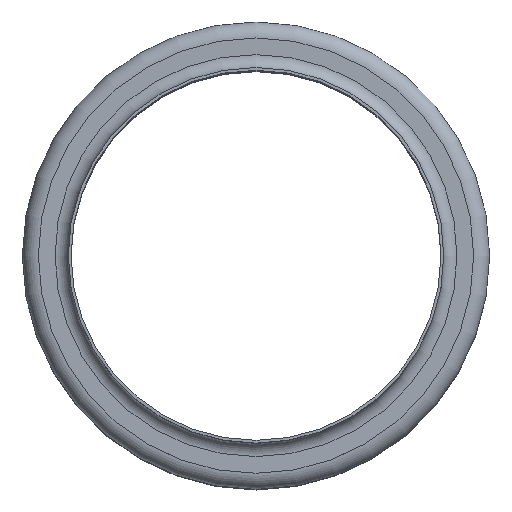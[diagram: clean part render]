
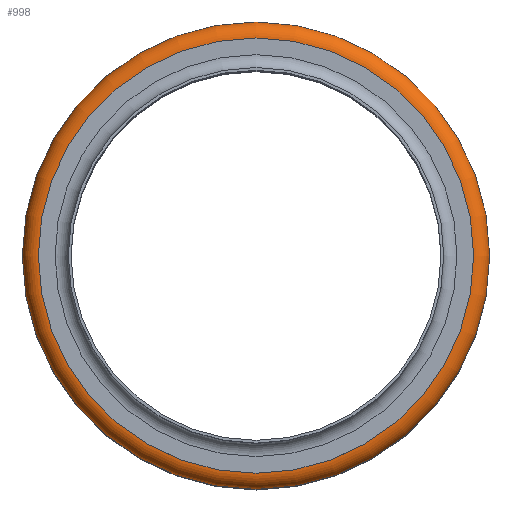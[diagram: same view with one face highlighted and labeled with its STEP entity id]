
A CAD part, top view. The second image highlights one B-rep face of the part: STEP entity #998.
In plain terms, the highlighted toroidal (fillet/blend) face has major radius 35.49 mm and minor radius 2.61 mm.
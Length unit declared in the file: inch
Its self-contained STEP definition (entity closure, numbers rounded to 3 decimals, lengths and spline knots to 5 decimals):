
#60=TOROIDAL_SURFACE('',#1189,1.39725,0.10275);
#163=FACE_OUTER_BOUND('',#270,.T.);
#270=EDGE_LOOP('',(#771,#772,#773,#774));
#383=CIRCLE('',#1188,1.39725);
#384=CIRCLE('',#1190,1.39725);
#385=CIRCLE('',#1191,0.10275);
#464=VERTEX_POINT('',#1814);
#465=VERTEX_POINT('',#1817);
#569=EDGE_CURVE('',#464,#464,#383,.T.);
#570=EDGE_CURVE('',#465,#465,#384,.T.);
#571=EDGE_CURVE('',#465,#464,#385,.T.);
#771=ORIENTED_EDGE('',*,*,#570,.F.);
#772=ORIENTED_EDGE('',*,*,#571,.T.);
#773=ORIENTED_EDGE('',*,*,#569,.T.);
#774=ORIENTED_EDGE('',*,*,#571,.F.);
#998=ADVANCED_FACE('',(#163),#60,.T.);
#1188=AXIS2_PLACEMENT_3D('',#1815,#1526,#1527);
#1189=AXIS2_PLACEMENT_3D('',#1816,#1528,#1529);
#1190=AXIS2_PLACEMENT_3D('',#1818,#1530,#1531);
#1191=AXIS2_PLACEMENT_3D('',#1819,#1532,#1533);
#1526=DIRECTION('center_axis',(0.,0.,-1.));
#1527=DIRECTION('ref_axis',(1.,0.,0.));
#1528=DIRECTION('center_axis',(0.,0.,-1.));
#1529=DIRECTION('ref_axis',(-1.,0.,0.));
#1530=DIRECTION('center_axis',(0.,0.,-1.));
#1531=DIRECTION('ref_axis',(1.,0.,0.));
#1532=DIRECTION('center_axis',(0.,-1.,0.));
#1533=DIRECTION('ref_axis',(1.,0.,0.));
#1814=CARTESIAN_POINT('',(1.39725,0.,-0.08475));
#1815=CARTESIAN_POINT('Origin',(0.,0.,-0.08475));
#1816=CARTESIAN_POINT('Origin',(0.,0.,-0.1875));
#1817=CARTESIAN_POINT('',(1.39725,0.,-0.29025));
#1818=CARTESIAN_POINT('Origin',(0.,0.,-0.29025));
#1819=CARTESIAN_POINT('Origin',(1.39725,0.,-0.1875));
